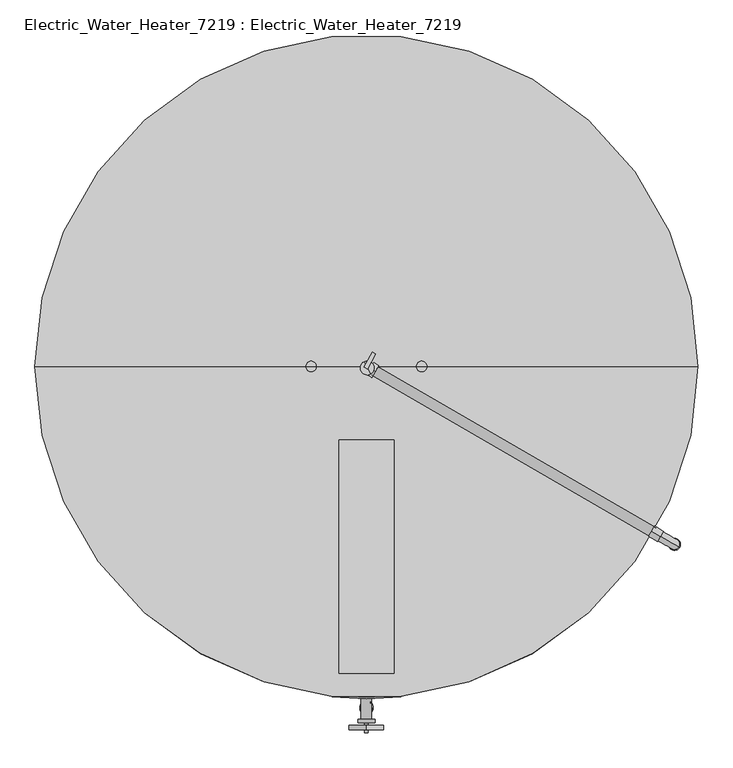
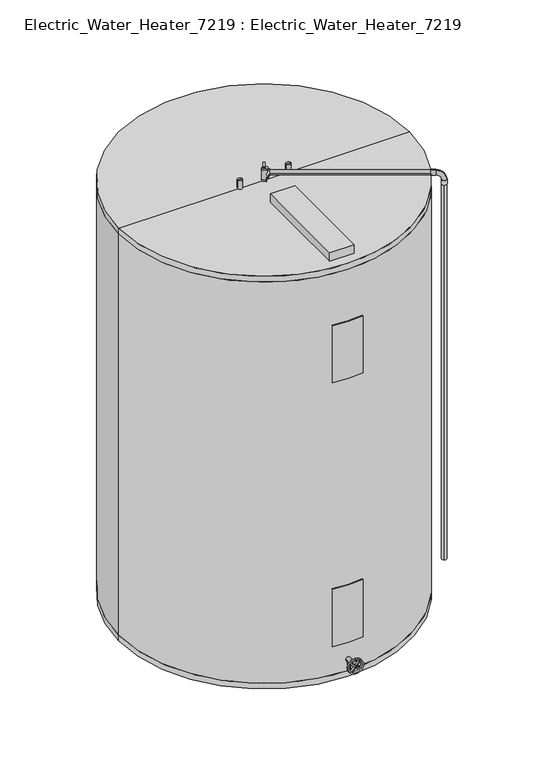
"""IFC4 building model written with IfcOpenShell, lengths in millimetres: flow terminal geometry, Electric_Water_Heater_7219 : Electric_Water_Heater_7219."""

from ifc_helpers import new_model, si_unit, point, frame, frame_2d, origin, place, context, project, spatial, polyline, circle_curve, ellipse_curve, trimmed, segment, composite_curve, outline, extrude, source, transform, mapped, element, save
from ifc_brep_helpers import plane_surface, cylinder_surface, revolved_surface, advanced_brep


def electric_water_heater_7219_electric_water_heater_7219_9377e8ca(model_context):
    return source(origin(), model_context, "Body", "SolidModel", [
        extrude(outline(polyline([(50.8, -564.0798308), (-50.8, -564.0798308), (-50.8, -135.4548308), (50.8, -135.4548308), (50.8, -564.0798308)])), frame((0.0, 0.0, 1828.8), z_axis=(0.0, 0.0, 1.0), x_axis=(1.0, 0.0, 0.0)), (0.0, 0.0, 1.0), 38.1),
        extrude(outline(composite_curve([segment(trimmed(circle_curve(frame_2d((0.0, -71.0670833)), 540.2142323), [point((63.5, -607.53625))], [point((-63.5, -607.53625))], False, "CARTESIAN"), True, "CONTINUOUS"), segment(polyline([(-63.5, -607.53625), (-63.5, -604.36125)]), True, "CONTINUOUS"), segment(trimmed(circle_curve(frame_2d((0.0, -67.8920833)), 540.2142323), [point((-63.5, -604.36125))], [point((63.5, -604.36125))], True, "CARTESIAN"), True, "CONTINUOUS"), segment(polyline([(63.5, -604.36125), (63.5, -607.53625)]), True, "CONTINUOUS")], self_intersect=False)), frame((0.0, 0.0, 152.4), z_axis=(0.0, 0.0, 1.0), x_axis=(1.0, 0.0, 0.0)), (0.0, 0.0, 1.0), 254.0),
        extrude(outline(composite_curve([segment(trimmed(circle_curve(frame_2d((0.0, -71.0670833)), 540.2142323), [point((63.5, -607.53625))], [point((-63.5, -607.53625))], False, "CARTESIAN"), True, "CONTINUOUS"), segment(polyline([(-63.5, -607.53625), (-63.5, -604.36125)]), True, "CONTINUOUS"), segment(trimmed(circle_curve(frame_2d((0.0, -67.8920833)), 540.2142323), [point((-63.5, -604.36125))], [point((63.5, -604.36125))], True, "CARTESIAN"), True, "CONTINUOUS"), segment(polyline([(63.5, -604.36125), (63.5, -607.53625)]), True, "CONTINUOUS")], self_intersect=False)), frame((0.0, 0.0, 1320.8), z_axis=(0.0, 0.0, 1.0), x_axis=(1.0, 0.0, 0.0)), (0.0, 0.0, 1.0), 254.0),
        advanced_brep(
        [(540.9898318, -312.340625, 1872.5437922), (540.9898318, -312.340625, 1853.4937922), (574.6728073, -331.7875, 1833.6500422), (558.1750234, -322.2625, 1833.6500422)],
        [
            (0, 1, circle_curve(frame((540.9898318, -312.340625, 1863.0187922), z_axis=(-0.866025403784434, 0.500000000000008, 0.0), x_axis=(0.0, 0.0, -1.0)), 9.525)),
            (1, 0, circle_curve(frame((540.9898318, -312.340625, 1863.0187922), z_axis=(-0.866025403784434, 0.500000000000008, 0.0), x_axis=(0.0, 0.0, -1.0)), 9.525)),
            (2, 3, circle_curve(frame((566.4239153, -327.025, 1833.6500422), z_axis=(0.0, 0.0, -1.0), x_axis=(-0.8660254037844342, 0.5000000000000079, 0.0)), 9.525)),
            (3, 2, circle_curve(frame((566.4239153, -327.025, 1833.6500422), z_axis=(0.0, 0.0, -1.0), x_axis=(-0.8660254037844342, 0.5000000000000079, 0.0)), 9.525)),
            (3, 1, circle_curve(frame((540.9898318, -312.340625, 1833.6500422), z_axis=(-0.5000000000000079, -0.8660254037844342, 0.0), x_axis=(0.0, 0.0, 1.0)), 19.84375)),
            (0, 2, circle_curve(frame((540.9898318, -312.340625, 1833.6500422), z_axis=(0.5000000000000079, 0.8660254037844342, 0.0), x_axis=(0.0, 0.0, 1.0)), 38.89375)),
        ],
        [
            plane_surface(frame((540.9898318, -312.340625, 1863.0187922), z_axis=(-0.8660254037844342, 0.500000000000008, 0.0), x_axis=(0.500000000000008, 0.8660254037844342, 0.0))),
            plane_surface(frame((566.4239153, -327.025, 1833.6500422), z_axis=(0.0, 0.0, -1.0000000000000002), x_axis=(0.500000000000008, 0.8660254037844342, 0.0))),
            revolved_surface(trimmed(ellipse_curve(frame((540.9898318, -312.340625, 1863.0187922), z_axis=(-0.866025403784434, 0.500000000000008, 0.0), x_axis=(0.0, 0.0, -1.0)), 9.525, 9.525), [point((540.9898318, -312.340625, 1872.5437922))], [point((540.9898318, -312.340625, 1853.4937922))], True, "CARTESIAN"), (540.9898318, -312.340625, 1833.6500422), (0.5000000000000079, 0.8660254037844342, 0.0)),
            revolved_surface(trimmed(ellipse_curve(frame((540.9898318, -312.340625, 1863.0187922), z_axis=(-0.866025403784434, 0.500000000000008, 0.0), x_axis=(0.0, 0.0, -1.0)), 9.525, 9.525), [point((540.9898318, -312.340625, 1853.4937922))], [point((540.9898318, -312.340625, 1872.5437922))], True, "CARTESIAN"), (540.9898318, -312.340625, 1833.6500422), (0.5000000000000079, 0.8660254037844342, 0.0)),
        ],
        [
            (0, [[1, 2]]),
            (1, [[3, 4]]),
            (2, [[5, -1, 6, -4]]),
            (3, [[-6, -2, -5, -3]]),
        ],
    ),
        extrude(outline(polyline([(-4.3219774, -1.1358845), (11.5530226, 26.3604221), (17.0522839, 23.1854221), (1.6572337, -4.5879836), (-4.3219774, -1.1358845)])), frame((0.0, 0.0, 1883.7924033), z_axis=(0.0, 0.0, 1.0), x_axis=(1.0, 0.0, 0.0)), (0.0, 0.0, 1.0), 4.7625),
        advanced_brep(
        [(13.7481533, -7.9375, 1863.0187922), (18.5106533, 0.311392, 1863.0187922), (8.9856533, -16.186392, 1863.0187922), (523.1665861, -313.048892, 1863.0187922), (532.6915861, -296.551108, 1863.0187922), (527.9290861, -304.8, 1863.0187922)],
        [
            (0, 1),
            (1, 2, circle_curve(frame((13.7481533, -7.9375, 1863.0187922), z_axis=(-0.8660254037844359, 0.5000000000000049, 0.0), x_axis=(0.5000000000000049, 0.8660254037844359, 0.0)), 9.525)),
            (2, 0),
            (2, 1, circle_curve(frame((13.7481533, -7.9375, 1863.0187922), z_axis=(-0.8660254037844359, 0.5000000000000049, 0.0), x_axis=(0.5000000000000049, 0.8660254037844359, 0.0)), 9.525)),
            (3, 4, circle_curve(frame((527.9290861, -304.8, 1863.0187922), z_axis=(0.8660254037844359, -0.5000000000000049, 0.0), x_axis=(0.5000000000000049, 0.8660254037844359, 0.0)), 9.525)),
            (4, 5),
            (5, 3),
            (4, 3, circle_curve(frame((527.9290861, -304.8, 1863.0187922), z_axis=(0.8660254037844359, -0.5000000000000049, 0.0), x_axis=(0.5000000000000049, 0.8660254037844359, 0.0)), 9.525)),
            (1, 4),
            (3, 2),
        ],
        [
            plane_surface(frame((13.7481533, -7.9375, 1863.0187922), z_axis=(-0.8660254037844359, 0.5000000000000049, 0.0), x_axis=(0.5000000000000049, 0.8660254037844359, 0.0))),
            plane_surface(frame((527.9290861, -304.8, 1863.0187922), z_axis=(0.8660254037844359, -0.5000000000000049, 0.0), x_axis=(0.5000000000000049, 0.8660254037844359, 0.0))),
            cylinder_surface(frame((-107.2355956, 61.9125, 1863.0187922), z_axis=(-0.8660254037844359, 0.5000000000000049, 0.0), x_axis=(0.5000000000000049, 0.8660254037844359, 0.0)), 9.525),
        ],
        [
            (0, [[1, 2, 3]]),
            (0, [[-3, 4, -1]]),
            (1, [[5, 6, 7]]),
            (1, [[8, -7, -6]]),
            (2, [[-2, 9, -5, 10]]),
            (2, [[-4, -10, -8, -9]]),
        ],
    ),
        advanced_brep(
        [(561.6614153, -335.273892, 1815.1761033), (571.1864153, -318.776108, 1815.1761033), (566.4239153, -327.025, 1815.1761033), (561.6614153, -335.273892, 152.4), (571.1864153, -318.776108, 152.4), (566.4239153, -327.025, 152.4)],
        [
            (0, 1, circle_curve(frame((566.4239153, -327.025, 1815.1761033), z_axis=(0.0, 0.0, 1.0), x_axis=(0.5000000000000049, 0.8660254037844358, 0.0)), 9.525)),
            (1, 2),
            (2, 0),
            (1, 0, circle_curve(frame((566.4239153, -327.025, 1815.1761033), z_axis=(0.0, 0.0, 1.0), x_axis=(0.5000000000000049, 0.8660254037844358, 0.0)), 9.525)),
            (3, 4, circle_curve(frame((566.4239153, -327.025, 152.4), z_axis=(0.0, 0.0, 1.0), x_axis=(0.5000000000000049, 0.8660254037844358, 0.0)), 9.525)),
            (4, 1),
            (0, 3),
            (4, 3, circle_curve(frame((566.4239153, -327.025, 152.4), z_axis=(0.0, 0.0, 1.0), x_axis=(0.5000000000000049, 0.8660254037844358, 0.0)), 9.525)),
            (5, 4),
            (3, 5),
        ],
        [
            plane_surface(frame((566.4239153, -327.025, 1815.1761033), z_axis=(0.0, 0.0, 1.0), x_axis=(0.5000000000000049, 0.8660254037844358, 0.0))),
            cylinder_surface(frame((566.4239153, -327.025, 1815.1761033), z_axis=(0.0, 0.0, -1.0), x_axis=(0.5000000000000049, 0.8660254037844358, 0.0)), 9.525),
            plane_surface(frame((566.4239153, -327.025, 152.4), z_axis=(0.0, 0.0, -1.0), x_axis=(0.5000000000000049, 0.8660254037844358, 0.0))),
        ],
        [
            (0, [[1, 2, 3]]),
            (0, [[4, -3, -2]]),
            (1, [[5, 6, -1, 7]]),
            (1, [[8, -7, -4, -6]]),
            (2, [[9, -5, 10]]),
            (2, [[-10, -8, -9]]),
        ],
    ),
        advanced_brep(
        [(0.0, 0.0, 1880.6878317), (-0.4749026, -0.8225555, 1880.6878317), (0.4749026, 0.8225555, 1880.6878317), (0.4749026, 0.8225555, 1888.7618554), (-0.4749026, -0.8225555, 1888.7618554), (0.0, 0.0, 1888.7618554)],
        [
            (0, 1),
            (1, 2, circle_curve(frame((0.0, 0.0, 1880.6878317), z_axis=(0.0, 0.0, -1.0), x_axis=(-0.500000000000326, -0.8660254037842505, 0.0)), 0.9498053)),
            (2, 0),
            (2, 1, circle_curve(frame((0.0, 0.0, 1880.6878317), z_axis=(0.0, 0.0, -1.0), x_axis=(-0.500000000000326, -0.8660254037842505, 0.0)), 0.9498053)),
            (3, 4, circle_curve(frame((0.0, 0.0, 1888.7618554), z_axis=(0.0, 0.0, 1.0), x_axis=(-0.500000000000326, -0.8660254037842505, 0.0)), 0.9498053)),
            (4, 5),
            (5, 3),
            (4, 3, circle_curve(frame((0.0, 0.0, 1888.7618554), z_axis=(0.0, 0.0, 1.0), x_axis=(-0.500000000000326, -0.8660254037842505, 0.0)), 0.9498053)),
            (1, 4),
            (3, 2),
        ],
        [
            plane_surface(frame((0.0, 0.0, 1880.6878317), z_axis=(0.0, 0.0, -1.0), x_axis=(-0.500000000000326, -0.8660254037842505, 0.0))),
            plane_surface(frame((0.0, 0.0, 1888.7618554), z_axis=(0.0, 0.0, 1.0), x_axis=(-0.500000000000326, -0.8660254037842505, 0.0))),
            cylinder_surface(frame((0.0, 0.0, 1876.4133485), z_axis=(0.0, 0.0, -1.0), x_axis=(-0.500000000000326, -0.8660254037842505, 0.0)), 0.9498053),
        ],
        [
            (0, [[1, 2, 3]]),
            (0, [[-3, 4, -1]]),
            (1, [[5, 6, 7]]),
            (1, [[8, -7, -6]]),
            (2, [[-2, 9, -5, 10]]),
            (2, [[-4, -10, -8, -9]]),
        ],
    ),
        advanced_brep(
        [(556.8332036, -321.4878, 1814.3823533), (576.0146271, -332.5622, 1814.3823533), (576.0146271, -332.5622, 1833.4323533), (556.8332036, -321.4878, 1833.4323533), (566.4239153, -327.025, 1814.3823533), (566.4239153, -327.025, 1833.4323533)],
        [
            (0, 1, circle_curve(frame((566.4239153, -327.025, 1814.3823533), z_axis=(0.0, 0.0, 1.0), x_axis=(0.8660254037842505, -0.500000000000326, 0.0)), 11.0744)),
            (1, 2),
            (2, 3, circle_curve(frame((566.4239153, -327.025, 1833.4323533), z_axis=(0.0, 0.0, -1.0), x_axis=(0.8660254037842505, -0.500000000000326, 0.0)), 11.0744)),
            (3, 0),
            (1, 0, circle_curve(frame((566.4239153, -327.025, 1814.3823533), z_axis=(0.0, 0.0, 1.0), x_axis=(0.8660254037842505, -0.500000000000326, 0.0)), 11.0744)),
            (3, 2, circle_curve(frame((566.4239153, -327.025, 1833.4323533), z_axis=(0.0, 0.0, -1.0), x_axis=(0.8660254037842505, -0.500000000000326, 0.0)), 11.0744)),
            (4, 1),
            (0, 4),
            (2, 5),
            (5, 3),
        ],
        [
            cylinder_surface(frame((566.4239153, -327.025, 1795.3323533), z_axis=(0.0, 0.0, -1.0), x_axis=(0.8660254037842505, -0.500000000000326, 0.0)), 11.0744),
            plane_surface(frame((566.4239153, -327.025, 1814.3823533), z_axis=(0.0, 0.0, -1.0), x_axis=(0.8660254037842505, -0.500000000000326, 0.0))),
            plane_surface(frame((566.4239153, -327.025, 1833.4323533), z_axis=(0.0, 0.0, 1.0), x_axis=(0.8660254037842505, -0.500000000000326, 0.0))),
        ],
        [
            (0, [[1, 2, 3, 4]]),
            (0, [[5, -4, 6, -2]]),
            (1, [[7, -1, 8]]),
            (1, [[-8, -5, -7]]),
            (2, [[-3, 9, 10]]),
            (2, [[-6, -10, -9]]),
        ],
    ),
        advanced_brep(
        [(524.3747796, -303.0187396, 1851.9443922), (524.3747796, -303.0187396, 1874.0931922), (540.8725635, -312.5437396, 1874.0931922), (540.8725635, -312.5437396, 1851.9443922), (524.3747796, -303.0187396, 1863.0187922), (540.8725635, -312.5437396, 1863.0187922)],
        [
            (0, 1, circle_curve(frame((524.3747796, -303.0187396, 1863.0187922), z_axis=(0.8660254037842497, -0.5000000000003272, 0.0), x_axis=(0.0, 0.0, 1.0)), 11.0744)),
            (1, 2),
            (2, 3, circle_curve(frame((540.8725635, -312.5437396, 1863.0187922), z_axis=(-0.8660254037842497, 0.5000000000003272, 0.0), x_axis=(0.0, 0.0, 1.0)), 11.0744)),
            (3, 0),
            (1, 0, circle_curve(frame((524.3747796, -303.0187396, 1863.0187922), z_axis=(0.8660254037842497, -0.5000000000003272, 0.0), x_axis=(0.0, 0.0, 1.0)), 11.0744)),
            (3, 2, circle_curve(frame((540.8725635, -312.5437396, 1863.0187922), z_axis=(-0.8660254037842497, 0.5000000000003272, 0.0), x_axis=(0.0, 0.0, 1.0)), 11.0744)),
            (4, 1),
            (0, 4),
            (2, 5),
            (5, 3),
        ],
        [
            cylinder_surface(frame((510.2197464, -294.8463274, 1863.0187922), z_axis=(-0.8660254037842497, 0.5000000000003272, 0.0), x_axis=(0.0, 0.0, 1.0)), 11.0744),
            plane_surface(frame((524.3747796, -303.0187396, 1863.0187922), z_axis=(-0.8660254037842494, 0.5000000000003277, 0.0), x_axis=(0.0, 0.0, 1.0))),
            plane_surface(frame((540.8725635, -312.5437396, 1863.0187922), z_axis=(0.8660254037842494, -0.5000000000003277, 0.0), x_axis=(0.0, 0.0, 1.0))),
        ],
        [
            (0, [[1, 2, 3, 4]]),
            (0, [[5, -4, 6, -2]]),
            (1, [[7, -1, 8]]),
            (1, [[-8, -5, -7]]),
            (2, [[-3, 9, 10]]),
            (2, [[-6, -10, -9]]),
        ],
    ),
        advanced_brep(
        [(16.2688237, -9.3928098, 1850.3981672), (16.2688237, -9.3928098, 1875.6394172), (7.2359499, -4.1776776, 1875.6394172), (7.2359499, -4.1776776, 1850.3981672), (16.2688237, -9.3928098, 1863.0187922), (7.2359499, -4.1776776, 1863.0187922)],
        [
            (0, 1, circle_curve(frame((16.2688237, -9.3928098, 1863.0187922), z_axis=(-0.8660254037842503, 0.5000000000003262, 0.0), x_axis=(0.0, 0.0, 1.0)), 12.620625)),
            (1, 2),
            (2, 3, circle_curve(frame((7.2359499, -4.1776776, 1863.0187922), z_axis=(0.8660254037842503, -0.5000000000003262, 0.0), x_axis=(0.0, 0.0, 1.0)), 12.620625)),
            (3, 0),
            (1, 0, circle_curve(frame((16.2688237, -9.3928098, 1863.0187922), z_axis=(-0.8660254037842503, 0.5000000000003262, 0.0), x_axis=(0.0, 0.0, 1.0)), 12.620625)),
            (3, 2, circle_curve(frame((7.2359499, -4.1776776, 1863.0187922), z_axis=(0.8660254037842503, -0.5000000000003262, 0.0), x_axis=(0.0, 0.0, 1.0)), 12.620625)),
            (4, 1),
            (0, 4),
            (2, 5),
            (5, 3),
        ],
        [
            cylinder_surface(frame((-18.3376508, 10.5872476, 1863.0187922), z_axis=(0.8660254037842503, -0.5000000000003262, 0.0), x_axis=(0.0, 0.0, 1.0)), 12.620625),
            plane_surface(frame((16.2688237, -9.3928098, 1863.0187922), z_axis=(0.8660254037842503, -0.5000000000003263, 0.0), x_axis=(0.0, 0.0, 1.0))),
            plane_surface(frame((7.2359499, -4.1776776, 1863.0187922), z_axis=(-0.8660254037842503, 0.5000000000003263, 0.0), x_axis=(0.0, 0.0, 1.0))),
        ],
        [
            (0, [[1, 2, 3, 4]]),
            (0, [[5, -4, 6, -2]]),
            (1, [[7, -1, 8]]),
            (1, [[-8, -5, -7]]),
            (2, [[-3, 9, 10]]),
            (2, [[-6, -10, -9]]),
        ],
    ),
        advanced_brep(
        [(7.9375, -13.7481533, 1881.7662493), (-4.7625, 8.248892, 1881.7662493), (-4.7625, 8.248892, 1839.8562493), (7.9375, -13.7481533, 1839.8562493), (1.5875, -2.7496307, 1881.7662493), (1.5875, -2.7496307, 1839.8562493)],
        [
            (0, 1, circle_curve(frame((1.5875, -2.7496307, 1881.7662493), z_axis=(0.0, 0.0, -1.0), x_axis=(-0.4999999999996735, 0.8660254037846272, 0.0)), 12.7)),
            (1, 2),
            (2, 3, circle_curve(frame((1.5875, -2.7496307, 1839.8562493), z_axis=(0.0, 0.0, 1.0), x_axis=(-0.4999999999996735, 0.8660254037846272, 0.0)), 12.7)),
            (3, 0),
            (1, 0, circle_curve(frame((1.5875, -2.7496307, 1881.7662493), z_axis=(0.0, 0.0, -1.0), x_axis=(-0.4999999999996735, 0.8660254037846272, 0.0)), 12.7)),
            (3, 2, circle_curve(frame((1.5875, -2.7496307, 1839.8562493), z_axis=(0.0, 0.0, 1.0), x_axis=(-0.4999999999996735, 0.8660254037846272, 0.0)), 12.7)),
            (4, 1),
            (0, 4),
            (2, 5),
            (5, 3),
        ],
        [
            cylinder_surface(frame((1.5875, -2.7496307, 1774.9810224), z_axis=(0.0, 0.0, 1.0), x_axis=(-0.4999999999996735, 0.8660254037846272, 0.0)), 12.7),
            plane_surface(frame((1.5875, -2.7496307, 1881.7662493), z_axis=(0.0, 0.0, 1.0), x_axis=(-0.4999999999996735, 0.8660254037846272, 0.0))),
            plane_surface(frame((1.5875, -2.7496307, 1839.8562493), z_axis=(0.0, 0.0, -1.0), x_axis=(-0.4999999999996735, 0.8660254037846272, 0.0))),
        ],
        [
            (0, [[1, 2, 3, 4]]),
            (0, [[5, -4, 6, -2]]),
            (1, [[7, -1, 8]]),
            (1, [[-8, -5, -7]]),
            (2, [[-3, 9, 10]]),
            (2, [[-6, -10, -9]]),
        ],
    ),
        advanced_brep(
        [(4.7625, -8.248892, 1841.7969613), (-4.7625, 8.248892, 1841.7969613), (-4.7625, 8.248892, 1822.45), (4.7625, -8.248892, 1822.45), (0.0, 0.0, 1841.7969613), (0.0, 0.0, 1822.45)],
        [
            (0, 1, circle_curve(frame((0.0, 0.0, 1841.7969613), z_axis=(0.0, 0.0, -1.0), x_axis=(-0.4999999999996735, 0.8660254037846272, 0.0)), 9.525)),
            (1, 2),
            (2, 3, circle_curve(frame((0.0, 0.0, 1822.45), z_axis=(0.0, 0.0, 1.0), x_axis=(-0.4999999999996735, 0.8660254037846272, 0.0)), 9.525)),
            (3, 0),
            (1, 0, circle_curve(frame((0.0, 0.0, 1841.7969613), z_axis=(0.0, 0.0, -1.0), x_axis=(-0.4999999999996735, 0.8660254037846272, 0.0)), 9.525)),
            (3, 2, circle_curve(frame((0.0, 0.0, 1822.45), z_axis=(0.0, 0.0, 1.0), x_axis=(-0.4999999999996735, 0.8660254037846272, 0.0)), 9.525)),
            (4, 1),
            (0, 4),
            (2, 5),
            (5, 3),
        ],
        [
            cylinder_surface(frame((0.0, 0.0, 2076.45), z_axis=(0.0, 0.0, 1.0), x_axis=(-0.4999999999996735, 0.8660254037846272, 0.0)), 9.525),
            plane_surface(frame((0.0, 0.0, 1841.7969613), z_axis=(0.0, 0.0, 1.0), x_axis=(-0.4999999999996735, 0.8660254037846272, 0.0))),
            plane_surface(frame((0.0, 0.0, 1822.45), z_axis=(0.0, 0.0, -1.0), x_axis=(-0.4999999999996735, 0.8660254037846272, 0.0))),
        ],
        [
            (0, [[1, 2, 3, 4]]),
            (0, [[5, -4, 6, -2]]),
            (1, [[7, -1, 8]]),
            (1, [[-8, -5, -7]]),
            (2, [[-3, 9, 10]]),
            (2, [[-6, -10, -9]]),
        ],
    ),
        advanced_brep(
        [(-111.125, 0.0, 1866.9), (-92.075, 0.0, 1866.9), (-92.075, 0.0, 1822.45), (-111.125, 0.0, 1822.45), (-101.6, 0.0, 1866.9), (-101.6, 0.0, 1822.45)],
        [
            (0, 1, circle_curve(frame((-101.6, 0.0, 1866.9), z_axis=(0.0, 0.0, -1.0), x_axis=(1.0, 0.0, 0.0)), 9.525)),
            (1, 2),
            (2, 3, circle_curve(frame((-101.6, 0.0, 1822.45), z_axis=(0.0, 0.0, 1.0), x_axis=(1.0, 0.0, 0.0)), 9.525)),
            (3, 0),
            (1, 0, circle_curve(frame((-101.6, 0.0, 1866.9), z_axis=(0.0, 0.0, -1.0), x_axis=(1.0, 0.0, 0.0)), 9.525)),
            (3, 2, circle_curve(frame((-101.6, 0.0, 1822.45), z_axis=(0.0, 0.0, 1.0), x_axis=(1.0, 0.0, 0.0)), 9.525)),
            (4, 1),
            (0, 4),
            (2, 5),
            (5, 3),
        ],
        [
            cylinder_surface(frame((-101.6, 0.0, 2076.45), z_axis=(0.0, 0.0, 1.0), x_axis=(1.0, 0.0, 0.0)), 9.525),
            plane_surface(frame((-101.6, 0.0, 1866.9), z_axis=(0.0, 0.0, 1.0), x_axis=(1.0, 0.0, 0.0))),
            plane_surface(frame((-101.6, 0.0, 1822.45), z_axis=(0.0, 0.0, -1.0), x_axis=(1.0, 0.0, 0.0))),
        ],
        [
            (0, [[1, 2, 3, 4]]),
            (0, [[5, -4, 6, -2]]),
            (1, [[7, -1, 8]]),
            (1, [[-8, -5, -7]]),
            (2, [[-3, 9, 10]]),
            (2, [[-6, -10, -9]]),
        ],
    ),
        advanced_brep(
        [(92.075, 0.0, 1866.9), (111.125, 0.0, 1866.9), (111.125, 0.0, 1822.45), (92.075, 0.0, 1822.45), (101.6, 0.0, 1866.9), (101.6, 0.0, 1822.45)],
        [
            (0, 1, circle_curve(frame((101.6, 0.0, 1866.9), z_axis=(0.0, 0.0, -1.0), x_axis=(1.0, 0.0, 0.0)), 9.525)),
            (1, 2),
            (2, 3, circle_curve(frame((101.6, 0.0, 1822.45), z_axis=(0.0, 0.0, 1.0), x_axis=(1.0, 0.0, 0.0)), 9.525)),
            (3, 0),
            (1, 0, circle_curve(frame((101.6, 0.0, 1866.9), z_axis=(0.0, 0.0, -1.0), x_axis=(1.0, 0.0, 0.0)), 9.525)),
            (3, 2, circle_curve(frame((101.6, 0.0, 1822.45), z_axis=(0.0, 0.0, 1.0), x_axis=(1.0, 0.0, 0.0)), 9.525)),
            (4, 1),
            (0, 4),
            (2, 5),
            (5, 3),
        ],
        [
            cylinder_surface(frame((101.6, 0.0, 2076.45), z_axis=(0.0, 0.0, 1.0), x_axis=(1.0, 0.0, 0.0)), 9.525),
            plane_surface(frame((101.6, 0.0, 1866.9), z_axis=(0.0, 0.0, 1.0), x_axis=(1.0, 0.0, 0.0))),
            plane_surface(frame((101.6, 0.0, 1822.45), z_axis=(0.0, 0.0, -1.0), x_axis=(1.0, 0.0, 0.0))),
        ],
        [
            (0, [[1, 2, 3, 4]]),
            (0, [[5, -4, 6, -2]]),
            (1, [[7, -1, 8]]),
            (1, [[-8, -5, -7]]),
            (2, [[-3, 9, 10]]),
            (2, [[-6, -10, -9]]),
        ],
    ),
        advanced_brep(
        [(609.6, 0.0, 1803.4), (-609.6, 0.0, 1803.4), (-609.6, 0.0, 1828.8), (609.6, 0.0, 1828.8), (0.0, 0.0, 1803.4), (0.0, 0.0, 1828.8)],
        [
            (0, 1, circle_curve(frame((0.0, 0.0, 1803.4), z_axis=(0.0, 0.0, 1.0), x_axis=(-1.0, 0.0, 0.0)), 609.6)),
            (1, 2),
            (2, 3, circle_curve(frame((0.0, 0.0, 1828.8), z_axis=(0.0, 0.0, -1.0), x_axis=(-1.0, 0.0, 0.0)), 609.6)),
            (3, 0),
            (1, 0, circle_curve(frame((0.0, 0.0, 1803.4), z_axis=(0.0, 0.0, 1.0), x_axis=(-1.0, 0.0, 0.0)), 609.6)),
            (3, 2, circle_curve(frame((0.0, 0.0, 1828.8), z_axis=(0.0, 0.0, -1.0), x_axis=(-1.0, 0.0, 0.0)), 609.6)),
            (4, 1),
            (0, 4),
            (2, 5),
            (5, 3),
        ],
        [
            cylinder_surface(frame((0.0, 0.0, -127.0), z_axis=(0.0, 0.0, -1.0), x_axis=(-1.0, 0.0, 0.0)), 609.6),
            plane_surface(frame((0.0, 0.0, 1803.4), z_axis=(0.0, 0.0, -1.0), x_axis=(-1.0, 0.0, 0.0))),
            plane_surface(frame((0.0, 0.0, 1828.8), z_axis=(0.0, 0.0, 1.0), x_axis=(-1.0, 0.0, 0.0))),
        ],
        [
            (0, [[1, 2, 3, 4]]),
            (0, [[5, -4, 6, -2]]),
            (1, [[7, -1, 8]]),
            (1, [[-8, -5, -7]]),
            (2, [[-3, 9, 10]]),
            (2, [[-6, -10, -9]]),
        ],
    ),
        advanced_brep(
        [(609.6, 0.0, 0.0), (-609.6, 0.0, 0.0), (-609.6, 0.0, 25.4), (609.6, 0.0, 25.4), (0.0, 0.0, 0.0), (0.0, 0.0, 25.4)],
        [
            (0, 1, circle_curve(frame((0.0, 0.0, 0.0), z_axis=(0.0, 0.0, 1.0), x_axis=(-1.0, 0.0, 0.0)), 609.6)),
            (1, 2),
            (2, 3, circle_curve(frame((0.0, 0.0, 25.4), z_axis=(0.0, 0.0, -1.0), x_axis=(-1.0, 0.0, 0.0)), 609.6)),
            (3, 0),
            (1, 0, circle_curve(frame((0.0, 0.0, 0.0), z_axis=(0.0, 0.0, 1.0), x_axis=(-1.0, 0.0, 0.0)), 609.6)),
            (3, 2, circle_curve(frame((0.0, 0.0, 25.4), z_axis=(0.0, 0.0, -1.0), x_axis=(-1.0, 0.0, 0.0)), 609.6)),
            (4, 1),
            (0, 4),
            (2, 5),
            (5, 3),
        ],
        [
            cylinder_surface(frame((0.0, 0.0, -127.0), z_axis=(0.0, 0.0, -1.0), x_axis=(-1.0, 0.0, 0.0)), 609.6),
            plane_surface(frame((0.0, 0.0, 0.0), z_axis=(0.0, 0.0, -1.0), x_axis=(-1.0, 0.0, 0.0))),
            plane_surface(frame((0.0, 0.0, 25.4), z_axis=(0.0, 0.0, 1.0), x_axis=(-1.0, 0.0, 0.0))),
        ],
        [
            (0, [[1, 2, 3, 4]]),
            (0, [[5, -4, 6, -2]]),
            (1, [[7, -1, 8]]),
            (1, [[-8, -5, -7]]),
            (2, [[-3, 9, 10]]),
            (2, [[-6, -10, -9]]),
        ],
    ),
        advanced_brep(
        [(0.0, 0.0, 25.4), (-609.6, 0.0, 25.4), (609.6, 0.0, 25.4), (609.6, 0.0, 1803.4), (-609.6, 0.0, 1803.4), (0.0, 0.0, 1803.4)],
        [
            (0, 1),
            (1, 2, circle_curve(frame((0.0, 0.0, 25.4), z_axis=(0.0, 0.0, -1.0), x_axis=(-1.0, 0.0, 0.0)), 609.6)),
            (2, 0),
            (2, 1, circle_curve(frame((0.0, 0.0, 25.4), z_axis=(0.0, 0.0, -1.0), x_axis=(-1.0, 0.0, 0.0)), 609.6)),
            (3, 4, circle_curve(frame((0.0, 0.0, 1803.4), z_axis=(0.0, 0.0, 1.0), x_axis=(-1.0, 0.0, 0.0)), 609.6)),
            (4, 5),
            (5, 3),
            (4, 3, circle_curve(frame((0.0, 0.0, 1803.4), z_axis=(0.0, 0.0, 1.0), x_axis=(-1.0, 0.0, 0.0)), 609.6)),
            (1, 4),
            (3, 2),
        ],
        [
            plane_surface(frame((0.0, 0.0, 25.4), z_axis=(0.0, 0.0, -1.0), x_axis=(-1.0, 0.0, 0.0))),
            plane_surface(frame((0.0, 0.0, 1803.4), z_axis=(0.0, 0.0, 1.0), x_axis=(-1.0, 0.0, 0.0))),
            cylinder_surface(frame((0.0, 0.0, -482.6), z_axis=(0.0, 0.0, -1.0), x_axis=(-1.0, 0.0, 0.0)), 609.6),
        ],
        [
            (0, [[1, 2, 3]]),
            (0, [[-3, 4, -1]]),
            (1, [[5, 6, 7]]),
            (1, [[8, -7, -6]]),
            (2, [[-2, 9, -5, 10]]),
            (2, [[-4, -10, -8, -9]]),
        ],
    ),
        advanced_brep(
        [(0.0, -616.4814142, 77.3190594), (0.0, -623.9402244, 80.0338443), (0.0, -609.022604, 74.6042745), (0.0, -618.4858177, 37.2248201), (0.0, -640.7180323, 45.3166845), (0.0, -629.601925, 41.2707523), (0.0, -617.623211, 39.5948125), (0.0, -639.8554256, 47.6866768), (0.0, -619.5166816, 40.6880082), (0.0, -637.7022503, 47.3070139), (0.0, -619.0959506, 41.8439573), (0.0, -637.2815193, 48.462963), (0.0, -616.9427753, 41.4642944), (0.0, -639.1749899, 49.5561587), (0.0, -616.4195356, 42.9018835), (0.0, -638.6517502, 50.9937479), (0.0, -618.3130062, 43.9950793), (0.0, -636.4985749, 50.614085), (0.0, -617.8922752, 45.1510283), (0.0, -636.0778438, 51.770034), (0.0, -615.7390998, 44.7713654), (0.0, -637.9713144, 52.8632298), (0.0, -615.2158602, 46.2089546), (0.0, -637.4480748, 54.3008189), (0.0, -617.1093308, 47.3021503), (0.0, -635.2948995, 53.921156), (0.0, -616.6885997, 48.4580994), (0.0, -634.8741684, 55.0771051), (0.0, -614.5354244, 48.0784365), (0.0, -636.767639, 56.1703008), (0.0, -614.0121848, 49.5160256), (0.0, -636.2443993, 57.60789), (0.0, -617.6694819, 50.8471729), (0.0, -632.5871022, 56.2767427)],
        [
            (0, 1),
            (1, 2, circle_curve(frame((0.0, -616.4814142, 77.3190594), z_axis=(0.0, 0.34202014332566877, 0.9396926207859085), x_axis=(0.0, -0.9396926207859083, 0.3420201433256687)), 7.9375)),
            (2, 0),
            (2, 1, circle_curve(frame((0.0, -616.4814142, 77.3190594), z_axis=(0.0, 0.34202014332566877, 0.9396926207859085), x_axis=(0.0, -0.9396926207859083, 0.3420201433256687)), 7.9375)),
            (3, 4, circle_curve(frame((0.0, -629.601925, 41.2707523), z_axis=(0.0, -0.34202014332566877, -0.9396926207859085), x_axis=(0.0, -0.9396926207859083, 0.3420201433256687)), 11.8295143)),
            (4, 5),
            (5, 3),
            (4, 3, circle_curve(frame((0.0, -629.601925, 41.2707523), z_axis=(0.0, -0.34202014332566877, -0.9396926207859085), x_axis=(0.0, -0.9396926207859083, 0.3420201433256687)), 11.8295143)),
            (6, 7, circle_curve(frame((0.0, -628.7393183, 43.6407447), z_axis=(0.0, -0.34202014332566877, -0.9396926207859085), x_axis=(0.0, -0.9396926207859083, 0.3420201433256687)), 11.8295143)),
            (7, 4),
            (3, 6),
            (7, 6, circle_curve(frame((0.0, -628.7393183, 43.6407447), z_axis=(0.0, -0.34202014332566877, -0.9396926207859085), x_axis=(0.0, -0.9396926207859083, 0.3420201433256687)), 11.8295143)),
            (8, 9, circle_curve(frame((0.0, -628.609466, 43.9975111), z_axis=(0.0, -0.34202014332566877, -0.9396926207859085), x_axis=(0.0, -0.9396926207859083, 0.3420201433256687)), 9.676339)),
            (9, 7),
            (6, 8),
            (9, 8, circle_curve(frame((0.0, -628.609466, 43.9975111), z_axis=(0.0, -0.34202014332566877, -0.9396926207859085), x_axis=(0.0, -0.9396926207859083, 0.3420201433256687)), 9.676339)),
            (10, 11, circle_curve(frame((0.0, -628.1887349, 45.1534601), z_axis=(0.0, -0.34202014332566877, -0.9396926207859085), x_axis=(0.0, -0.9396926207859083, 0.3420201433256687)), 9.676339)),
            (11, 9),
            (8, 10),
            (11, 10, circle_curve(frame((0.0, -628.1887349, 45.1534601), z_axis=(0.0, -0.34202014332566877, -0.9396926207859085), x_axis=(0.0, -0.9396926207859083, 0.3420201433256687)), 9.676339)),
            (12, 13, circle_curve(frame((0.0, -628.0588826, 45.5102266), z_axis=(0.0, -0.34202014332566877, -0.9396926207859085), x_axis=(0.0, -0.9396926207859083, 0.3420201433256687)), 11.8295143)),
            (13, 11),
            (10, 12),
            (13, 12, circle_curve(frame((0.0, -628.0588826, 45.5102266), z_axis=(0.0, -0.34202014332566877, -0.9396926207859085), x_axis=(0.0, -0.9396926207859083, 0.3420201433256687)), 11.8295143)),
            (14, 15, circle_curve(frame((0.0, -627.5356429, 46.9478157), z_axis=(0.0, -0.34202014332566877, -0.9396926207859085), x_axis=(0.0, -0.9396926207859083, 0.3420201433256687)), 11.8295143)),
            (15, 13),
            (12, 14),
            (15, 14, circle_curve(frame((0.0, -627.5356429, 46.9478157), z_axis=(0.0, -0.34202014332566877, -0.9396926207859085), x_axis=(0.0, -0.9396926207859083, 0.3420201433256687)), 11.8295143)),
            (16, 17, circle_curve(frame((0.0, -627.4057905, 47.3045821), z_axis=(0.0, -0.34202014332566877, -0.9396926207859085), x_axis=(0.0, -0.9396926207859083, 0.3420201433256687)), 9.676339)),
            (17, 15),
            (14, 16),
            (17, 16, circle_curve(frame((0.0, -627.4057905, 47.3045821), z_axis=(0.0, -0.34202014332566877, -0.9396926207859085), x_axis=(0.0, -0.9396926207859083, 0.3420201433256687)), 9.676339)),
            (18, 19, circle_curve(frame((0.0, -626.9850595, 48.4605312), z_axis=(0.0, -0.34202014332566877, -0.9396926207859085), x_axis=(0.0, -0.9396926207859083, 0.3420201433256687)), 9.676339)),
            (19, 17),
            (16, 18),
            (19, 18, circle_curve(frame((0.0, -626.9850595, 48.4605312), z_axis=(0.0, -0.34202014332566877, -0.9396926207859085), x_axis=(0.0, -0.9396926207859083, 0.3420201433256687)), 9.676339)),
            (20, 21, circle_curve(frame((0.0, -626.8552071, 48.8172976), z_axis=(0.0, -0.34202014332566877, -0.9396926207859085), x_axis=(0.0, -0.9396926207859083, 0.3420201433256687)), 11.8295143)),
            (21, 19),
            (18, 20),
            (21, 20, circle_curve(frame((0.0, -626.8552071, 48.8172976), z_axis=(0.0, -0.34202014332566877, -0.9396926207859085), x_axis=(0.0, -0.9396926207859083, 0.3420201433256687)), 11.8295143)),
            (22, 23, circle_curve(frame((0.0, -626.3319675, 50.2548868), z_axis=(0.0, -0.34202014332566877, -0.9396926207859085), x_axis=(0.0, -0.9396926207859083, 0.3420201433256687)), 11.8295143)),
            (23, 21),
            (20, 22),
            (23, 22, circle_curve(frame((0.0, -626.3319675, 50.2548868), z_axis=(0.0, -0.34202014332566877, -0.9396926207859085), x_axis=(0.0, -0.9396926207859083, 0.3420201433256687)), 11.8295143)),
            (24, 25, circle_curve(frame((0.0, -626.2021151, 50.6116532), z_axis=(0.0, -0.34202014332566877, -0.9396926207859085), x_axis=(0.0, -0.9396926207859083, 0.3420201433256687)), 9.676339)),
            (25, 23),
            (22, 24),
            (25, 24, circle_curve(frame((0.0, -626.2021151, 50.6116532), z_axis=(0.0, -0.34202014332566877, -0.9396926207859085), x_axis=(0.0, -0.9396926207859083, 0.3420201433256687)), 9.676339)),
            (26, 27, circle_curve(frame((0.0, -625.7813841, 51.7676022), z_axis=(0.0, -0.34202014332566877, -0.9396926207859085), x_axis=(0.0, -0.9396926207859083, 0.3420201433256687)), 9.676339)),
            (27, 25),
            (24, 26),
            (27, 26, circle_curve(frame((0.0, -625.7813841, 51.7676022), z_axis=(0.0, -0.34202014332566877, -0.9396926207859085), x_axis=(0.0, -0.9396926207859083, 0.3420201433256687)), 9.676339)),
            (28, 29, circle_curve(frame((0.0, -625.6515317, 52.1243687), z_axis=(0.0, -0.34202014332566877, -0.9396926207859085), x_axis=(0.0, -0.9396926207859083, 0.3420201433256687)), 11.8295143)),
            (29, 27),
            (26, 28),
            (29, 28, circle_curve(frame((0.0, -625.6515317, 52.1243687), z_axis=(0.0, -0.34202014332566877, -0.9396926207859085), x_axis=(0.0, -0.9396926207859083, 0.3420201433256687)), 11.8295143)),
            (30, 31, circle_curve(frame((0.0, -625.1282921, 53.5619578), z_axis=(0.0, -0.34202014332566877, -0.9396926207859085), x_axis=(0.0, -0.9396926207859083, 0.3420201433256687)), 11.8295143)),
            (31, 29),
            (28, 30),
            (31, 30, circle_curve(frame((0.0, -625.1282921, 53.5619578), z_axis=(0.0, -0.34202014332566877, -0.9396926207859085), x_axis=(0.0, -0.9396926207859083, 0.3420201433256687)), 11.8295143)),
            (32, 33, circle_curve(frame((0.0, -625.1282921, 53.5619578), z_axis=(0.0, -0.34202014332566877, -0.9396926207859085), x_axis=(0.0, -0.9396926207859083, 0.3420201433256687)), 7.9375)),
            (33, 31),
            (30, 32),
            (33, 32, circle_curve(frame((0.0, -625.1282921, 53.5619578), z_axis=(0.0, -0.34202014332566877, -0.9396926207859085), x_axis=(0.0, -0.9396926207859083, 0.3420201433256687)), 7.9375)),
            (1, 33),
            (32, 2),
        ],
        [
            plane_surface(frame((0.0, -616.4814142, 77.3190594), z_axis=(0.0, 0.34202014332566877, 0.9396926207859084), x_axis=(0.0, -0.9396926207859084, 0.34202014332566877))),
            plane_surface(frame((0.0, -629.601925, 41.2707523), z_axis=(0.0, -0.34202014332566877, -0.9396926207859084), x_axis=(0.0, -0.9396926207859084, 0.34202014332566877))),
            cylinder_surface(frame((0.0, -659.9676773, -42.1584665), z_axis=(0.0, 0.3420201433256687, 0.9396926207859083), x_axis=(0.0, -0.9396926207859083, 0.3420201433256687)), 11.8295143),
            revolved_surface(polyline([(0.0, -639.8554256, 47.6866768), (0.0, -637.7022503, 47.3070139)]), (0.0, -659.9676773, -42.1584665), (0.0, 0.3420201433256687, 0.9396926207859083)),
            cylinder_surface(frame((0.0, -659.9676773, -42.1584665), z_axis=(0.0, 0.3420201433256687, 0.9396926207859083), x_axis=(0.0, -0.9396926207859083, 0.3420201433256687)), 9.676339),
            revolved_surface(polyline([(0.0, -637.2815193, 48.462963), (0.0, -639.1749899, 49.5561587)]), (0.0, -659.9676773, -42.1584665), (0.0, 0.3420201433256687, 0.9396926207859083)),
            revolved_surface(polyline([(0.0, -638.6517502, 50.9937479), (0.0, -636.4985749, 50.614085)]), (0.0, -659.9676773, -42.1584665), (0.0, 0.3420201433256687, 0.9396926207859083)),
            revolved_surface(polyline([(0.0, -636.0778438, 51.770034), (0.0, -637.9713144, 52.8632298)]), (0.0, -659.9676773, -42.1584665), (0.0, 0.3420201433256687, 0.9396926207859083)),
            revolved_surface(polyline([(0.0, -637.4480748, 54.3008189), (0.0, -635.2948995, 53.921156)]), (0.0, -659.9676773, -42.1584665), (0.0, 0.3420201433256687, 0.9396926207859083)),
            revolved_surface(polyline([(0.0, -634.8741684, 55.0771051), (0.0, -636.767639, 56.1703008)]), (0.0, -659.9676773, -42.1584665), (0.0, 0.3420201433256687, 0.9396926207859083)),
            plane_surface(frame((0.0, -625.1282921, 53.5619578), z_axis=(0.0, 0.34202014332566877, 0.9396926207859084), x_axis=(0.0, -0.9396926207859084, 0.34202014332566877))),
            cylinder_surface(frame((0.0, -659.9676773, -42.1584665), z_axis=(0.0, 0.3420201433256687, 0.9396926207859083), x_axis=(0.0, -0.9396926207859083, 0.3420201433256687)), 7.9375),
        ],
        [
            (0, [[1, 2, 3]]),
            (0, [[-3, 4, -1]]),
            (1, [[5, 6, 7]]),
            (1, [[8, -7, -6]]),
            (2, [[9, 10, -5, 11]]),
            (2, [[12, -11, -8, -10]]),
            (3, [[13, 14, -9, 15]]),
            (3, [[16, -15, -12, -14]]),
            (4, [[17, 18, -13, 19]]),
            (4, [[20, -19, -16, -18]]),
            (5, [[21, 22, -17, 23]]),
            (5, [[24, -23, -20, -22]]),
            (2, [[25, 26, -21, 27]]),
            (2, [[28, -27, -24, -26]]),
            (6, [[29, 30, -25, 31]]),
            (6, [[32, -31, -28, -30]]),
            (4, [[33, 34, -29, 35]]),
            (4, [[36, -35, -32, -34]]),
            (7, [[37, 38, -33, 39]]),
            (7, [[40, -39, -36, -38]]),
            (2, [[41, 42, -37, 43]]),
            (2, [[44, -43, -40, -42]]),
            (8, [[45, 46, -41, 47]]),
            (8, [[48, -47, -44, -46]]),
            (4, [[49, 50, -45, 51]]),
            (4, [[52, -51, -48, -50]]),
            (9, [[53, 54, -49, 55]]),
            (9, [[56, -55, -52, -54]]),
            (2, [[57, 58, -53, 59]]),
            (2, [[60, -59, -56, -58]]),
            (10, [[61, 62, -57, 63]]),
            (10, [[64, -63, -60, -62]]),
            (11, [[-2, 65, -61, 66]]),
            (11, [[-4, -66, -64, -65]]),
        ],
    ),
        extrude(outline(composite_curve([segment(trimmed(circle_curve(frame_2d((77.3074044, 0.0)), 31.75), [point((109.0574044, 0.0))], [point((45.5574044, 0.0))], False, "CARTESIAN"), True, "CONTINUOUS"), segment(trimmed(circle_curve(frame_2d((77.3074044, 0.0)), 31.75), [point((45.5574044, 0.0))], [point((109.0574044, 0.0))], False, "CARTESIAN"), True, "CONTINUOUS")], self_intersect=False), holes=[composite_curve([segment(trimmed(circle_curve(frame_2d((77.3074044, 0.0)), 25.4), [point((96.5295033, -16.6033405))], [point((100.5493994, 10.2454707))], True, "CARTESIAN"), True, "CONTINUOUS"), segment(trimmed(circle_curve(frame_2d((77.3074044, 0.0)), 25.4), [point((100.5493994, 10.2454707))], [point((98.1597243, 14.5031292))], True, "CARTESIAN"), True, "CONTINUOUS"), segment(polyline([(98.1597243, 14.5031292), (81.7913789, -0.2349951), (96.5295033, -16.6033405)]), True, "CONTINUOUS")], self_intersect=False), composite_curve([segment(polyline([(77.5423996, 4.4839745), (93.9107449, 19.2220989)]), True, "CONTINUOUS"), segment(trimmed(circle_curve(frame_2d((77.3074044, 0.0)), 25.4), [point((93.9107449, 19.2220989))], [point((62.8042752, 20.8523199))], True, "CARTESIAN"), True, "CONTINUOUS"), segment(polyline([(62.8042752, 20.8523199), (77.5423996, 4.4839745)]), True, "CONTINUOUS")], self_intersect=False), composite_curve([segment(polyline([(77.0724093, -4.4839745), (60.7040639, -19.2220989)]), True, "CONTINUOUS"), segment(trimmed(circle_curve(frame_2d((77.3074044, 0.0)), 25.4), [point((60.7040639, -19.2220989))], [point((91.8105336, -20.8523199))], True, "CARTESIAN"), True, "CONTINUOUS"), segment(polyline([(91.8105336, -20.8523199), (77.0724093, -4.4839745)]), True, "CONTINUOUS")], self_intersect=False), composite_curve([segment(polyline([(72.8234299, 0.2349951), (58.0853056, 16.6033405)]), True, "CONTINUOUS"), segment(trimmed(circle_curve(frame_2d((77.3074044, 0.0)), 25.4), [point((58.0853056, 16.6033405))], [point((56.4550846, -14.5031292))], True, "CARTESIAN"), True, "CONTINUOUS"), segment(polyline([(56.4550846, -14.5031292), (72.8234299, 0.2349951)]), True, "CONTINUOUS")], self_intersect=False)]), frame((0.0, -668.02, 0.0), z_axis=(0.0, 1.0, 0.0), x_axis=(0.0, 0.0, 1.0)), (0.0, 0.0, 1.0), 8.3747193),
        advanced_brep(
        [(-3.175, -673.0310025, 77.3074044), (3.175, -673.0310025, 77.3074044), (0.0, -673.0310025, 77.3074044), (-3.175, -654.84375, 77.3074044), (3.175, -654.84375, 77.3074044), (-15.875, -654.84375, 77.3074044), (15.875, -654.84375, 77.3074044), (-15.875, -648.49375, 77.3074044), (15.875, -648.49375, 77.3074044), (-9.525, -648.49375, 77.3074044), (9.525, -648.49375, 77.3074044), (-9.525, -597.69375, 77.3074044), (9.525, -597.69375, 77.3074044), (0.0, -597.69375, 77.3074044)],
        [
            (0, 1, circle_curve(frame((0.0, -673.0310025, 77.3074044), z_axis=(0.0, -1.0, 0.0), x_axis=(1.0, 0.0, 0.0)), 3.175)),
            (1, 2),
            (2, 0),
            (1, 0, circle_curve(frame((0.0, -673.0310025, 77.3074044), z_axis=(0.0, -1.0, 0.0), x_axis=(1.0, 0.0, 0.0)), 3.175)),
            (3, 4, circle_curve(frame((0.0, -654.84375, 77.3074044), z_axis=(0.0, -1.0, 0.0), x_axis=(1.0, 0.0, 0.0)), 3.175)),
            (4, 1),
            (0, 3),
            (4, 3, circle_curve(frame((0.0, -654.84375, 77.3074044), z_axis=(0.0, -1.0, 0.0), x_axis=(1.0, 0.0, 0.0)), 3.175)),
            (5, 6, circle_curve(frame((0.0, -654.84375, 77.3074044), z_axis=(0.0, -1.0, 0.0), x_axis=(1.0, 0.0, 0.0)), 15.875)),
            (6, 4),
            (3, 5),
            (6, 5, circle_curve(frame((0.0, -654.84375, 77.3074044), z_axis=(0.0, -1.0, 0.0), x_axis=(1.0, 0.0, 0.0)), 15.875)),
            (7, 8, circle_curve(frame((0.0, -648.49375, 77.3074044), z_axis=(0.0, -1.0, 0.0), x_axis=(1.0, 0.0, 0.0)), 15.875)),
            (8, 6),
            (5, 7),
            (8, 7, circle_curve(frame((0.0, -648.49375, 77.3074044), z_axis=(0.0, -1.0, 0.0), x_axis=(1.0, 0.0, 0.0)), 15.875)),
            (9, 10, circle_curve(frame((0.0, -648.49375, 77.3074044), z_axis=(0.0, -1.0, 0.0), x_axis=(1.0, 0.0, 0.0)), 9.525)),
            (10, 8),
            (7, 9),
            (10, 9, circle_curve(frame((0.0, -648.49375, 77.3074044), z_axis=(0.0, -1.0, 0.0), x_axis=(1.0, 0.0, 0.0)), 9.525)),
            (11, 12, circle_curve(frame((0.0, -597.69375, 77.3074044), z_axis=(0.0, -1.0, 0.0), x_axis=(1.0, 0.0, 0.0)), 9.525)),
            (12, 10),
            (9, 11),
            (12, 11, circle_curve(frame((0.0, -597.69375, 77.3074044), z_axis=(0.0, -1.0, 0.0), x_axis=(1.0, 0.0, 0.0)), 9.525)),
            (13, 12),
            (11, 13),
        ],
        [
            plane_surface(frame((0.0, -673.0310025, 77.3074044), z_axis=(0.0, -1.0, 0.0), x_axis=(1.0, 0.0, 0.0))),
            cylinder_surface(frame((0.0, -1307.8985233, 77.3074044), z_axis=(0.0, 1.0, 0.0), x_axis=(1.0, 0.0, 0.0)), 3.175),
            plane_surface(frame((0.0, -654.84375, 77.3074044), z_axis=(0.0, -1.0, 0.0), x_axis=(1.0, 0.0, 0.0))),
            cylinder_surface(frame((0.0, -1307.8985233, 77.3074044), z_axis=(0.0, 1.0, 0.0), x_axis=(1.0, 0.0, 0.0)), 15.875),
            plane_surface(frame((0.0, -648.49375, 77.3074044), z_axis=(0.0, 1.0, 0.0), x_axis=(1.0, 0.0, 0.0))),
            cylinder_surface(frame((0.0, -1307.8985233, 77.3074044), z_axis=(0.0, 1.0, 0.0), x_axis=(1.0, 0.0, 0.0)), 9.525),
            plane_surface(frame((0.0, -597.69375, 77.3074044), z_axis=(0.0, 1.0, 0.0), x_axis=(1.0, 0.0, 0.0))),
        ],
        [
            (0, [[1, 2, 3]]),
            (0, [[4, -3, -2]]),
            (1, [[5, 6, -1, 7]]),
            (1, [[8, -7, -4, -6]]),
            (2, [[9, 10, -5, 11]]),
            (2, [[12, -11, -8, -10]]),
            (3, [[13, 14, -9, 15]]),
            (3, [[16, -15, -12, -14]]),
            (4, [[17, 18, -13, 19]]),
            (4, [[20, -19, -16, -18]]),
            (5, [[21, 22, -17, 23]]),
            (5, [[24, -23, -20, -22]]),
            (6, [[25, -21, 26]]),
            (6, [[-26, -24, -25]]),
        ],
    ),
    ])


if __name__ == "__main__":
    model = new_model("IFC4")
    model_context = context("Model", 3, world=origin())
    ifc_project = project(units=[si_unit("LENGTHUNIT", "METRE", prefix="MILLI")], contexts=[model_context])
    site = spatial("IfcSite", under=ifc_project)
    building = spatial("IfcBuilding", under=site)
    placement = place(None, origin())
    electric_water_heater_7219_electric_water_heater_7219_shape = electric_water_heater_7219_electric_water_heater_7219_9377e8ca(model_context)
    element("IfcFlowTerminal", 1, ObjectType="Electric_Water_Heater_7219 : Electric_Water_Heater_7219", at=placement, inside=building, context=model_context, shape_type="MappedRepresentation", body=[
        mapped(electric_water_heater_7219_electric_water_heater_7219_shape, transform((0.0, 0.0, 0.0), x_axis=(1.0, 0.0, 0.0), y_axis=(0.0, 1.0, 0.0), z_axis=(0.0, 0.0, 1.0))),
    ])
    save(model, "model.ifc")
